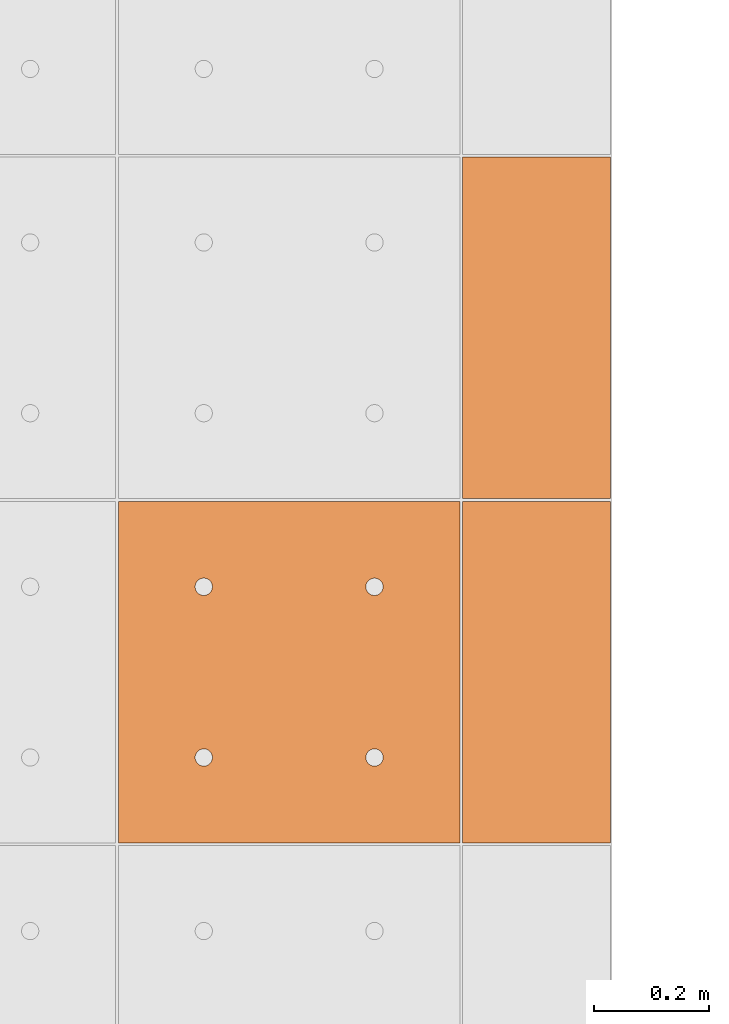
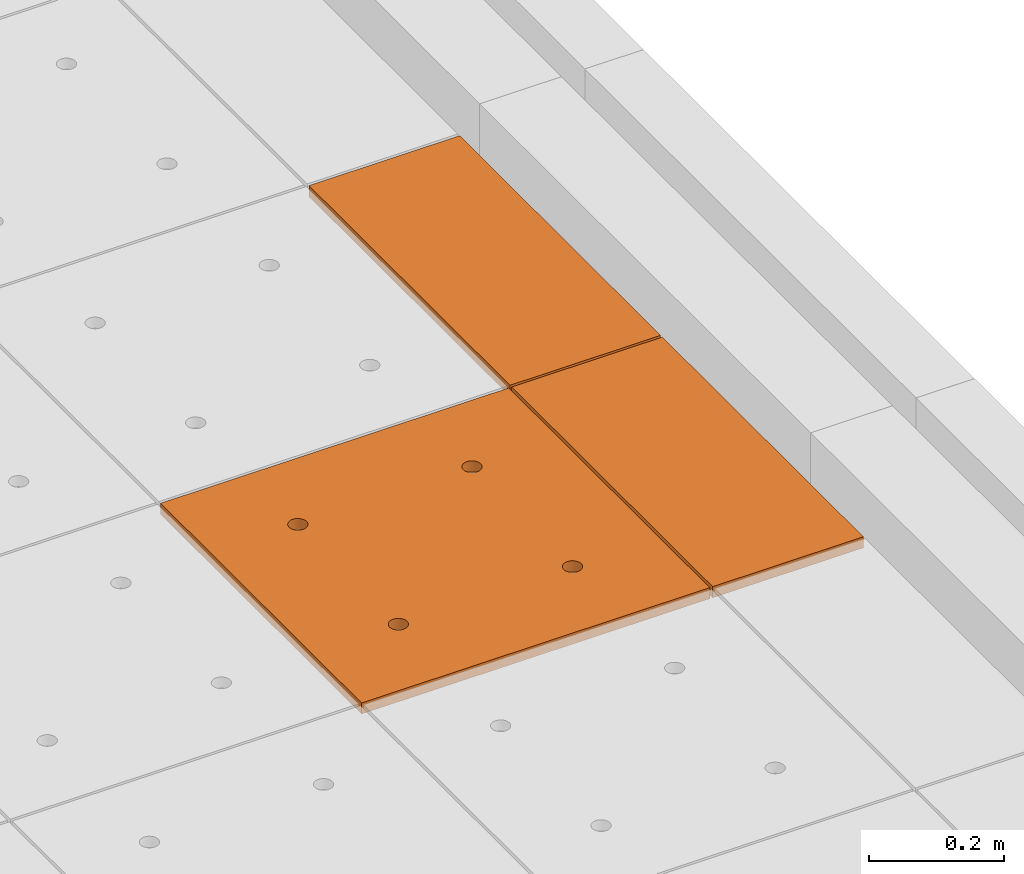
# One storey, part 229 of 338: 3 proxies, 1 element without a shape of its own.
"""IFC2X3 building model written with IfcOpenShell, lengths in millimetres."""

from ifc_helpers import new_model, entity, si_unit, converted_unit, derived_unit, money_unit, direction, frame, origin_with_axes, place, context, subcontext, project, spatial, faceted_brep, source, transform, mapped, material, type_object, type_shapes, element, aggregate, save


model = new_model("IFC2X3")

# Units and contexts
model_context = context("Model", 3, precision=0.01, world=origin_with_axes(), true_north=direction((0.0, 1.0)))
plan_context = context("Plan", 3, precision=0.01, world=origin_with_axes(), true_north=direction((0.0, 1.0)))
body_context = subcontext(model_context, "Body", "Model", "MODEL_VIEW")
ifc_project = project(units=[si_unit("LENGTHUNIT", "METRE", prefix="MILLI"), si_unit("AREAUNIT", "SQUARE_METRE"), si_unit("VOLUMEUNIT", "CUBIC_METRE"), converted_unit("PLANEANGLEUNIT", "DEGREE", entity("IfcPlaneAngleMeasure", 0.0174532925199), si_unit("PLANEANGLEUNIT", "RADIAN"), dimensions=[0, 0, 0, 0, 0, 0, 0]), money_unit("EUR"), converted_unit("TIMEUNIT", "Year", entity("IfcTimeMeasure", 31556926.0), si_unit("TIMEUNIT", "SECOND"), dimensions=[0, 0, 1, 0, 0, 0, 0]), si_unit("MASSUNIT", "GRAM", prefix="KILO"), si_unit("THERMODYNAMICTEMPERATUREUNIT", "DEGREE_CELSIUS"), si_unit("LUMINOUSINTENSITYUNIT", "LUMEN"), si_unit("ENERGYUNIT", "JOULE", prefix="MEGA"), derived_unit("THERMALCONDUCTANCEUNIT", [(si_unit("POWERUNIT", "WATT"), 1), (si_unit("LENGTHUNIT", "METRE"), -1), (si_unit("THERMODYNAMICTEMPERATUREUNIT", "KELVIN"), -1)]), derived_unit("SPECIFICHEATCAPACITYUNIT", [(si_unit("ENERGYUNIT", "JOULE"), 1), (si_unit("MASSUNIT", "GRAM", prefix="KILO"), -1), (si_unit("THERMODYNAMICTEMPERATUREUNIT", "KELVIN"), -1)]), derived_unit("MASSDENSITYUNIT", [(si_unit("MASSUNIT", "GRAM", prefix="KILO"), 1), (si_unit("VOLUMEUNIT", "CUBIC_METRE"), -1)])], contexts=[model_context, plan_context])

# Site, building, storey
site_placement = place(None, origin_with_axes())
site = spatial("IfcSite", under=ifc_project, at=site_placement, Name="Fortuinstraat Woensdrecht", CompositionType="ELEMENT")
building_placement = place(site_placement, origin_with_axes())
building = spatial("IfcBuilding", under=site, at=building_placement, Name="IKC Fortuna", CompositionType="ELEMENT")
storey_placement = place(building_placement, origin_with_axes())
storey = spatial("IfcBuildingStorey", under=building, at=storey_placement, Name="00 begane grond", CompositionType="ELEMENT", Elevation=0.0)

# Covering, proxies
covering_type = type_object("IfcCoveringType", Name="Curtain Wall Type", PredefinedType="CEILING")
covering_placement = place(storey_placement, frame((31656.9226967, 15748.5304598, 3210.0), z_axis=(0.0, 0.0, 1.0), x_axis=(1.0, 0.0, 0.0)))
covering = element("IfcCovering", 1, at=covering_placement, inside=storey, type_object=covering_type, Name="45_Plafondafwerking_P01", PredefinedType="CEILING")
ifc_material = material(Name="Gipsplaat")
building_element_proxy_type_1 = type_object("IfcBuildingElementProxyType", Name="Main Panel 600 x 600 x 20", PredefinedType="NOTDEFINED")
shared_shape_1 = source(origin_with_axes(), body_context, "Body", "Brep", [
    faceted_brep([(2.49999999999, 2.49999999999, -10.0), (300.0, 2.49999999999, -10.0), (300.0, 2.49999999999, 10.0), (2.49999999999, 2.49999999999, 10.0), (2.49999999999, 300.0, -10.0), (2.49999999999, 597.5, -10.0), (300.0, 597.5, -10.0), (597.5, 597.5, -10.0), (597.5, 300.0, -10.0), (597.5, 2.49999999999, -10.0), (166.25, 450.06232995, -10.0), (165.79423259, 452.64711538, -10.0), (164.896546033, 455.11348892, -10.0), (163.58421608, 457.38651108, -10.0), (161.897117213, 459.39711721, -10.0), (159.886511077, 461.08421608, -10.0), (157.613488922, 462.39654603, -10.0), (155.147115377, 463.29423259, -10.0), (152.562329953, 463.75, -10.0), (149.937670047, 463.75, -10.0), (147.352884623, 463.29423259, -10.0), (144.886511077, 462.39654603, -10.0), (142.613488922, 461.08421608, -10.0), (140.602882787, 459.39711721, -10.0), (138.91578392, 457.38651108, -10.0), (137.603453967, 455.11348892, -10.0), (136.705767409, 452.64711538, -10.0), (136.25, 450.06232995, -10.0), (136.25, 448.75, -10.0), (136.25, 447.43767005, -10.0), (136.705767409, 444.85288462, -10.0), (137.603453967, 442.38651108, -10.0), (138.91578392, 440.11348892, -10.0), (140.602882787, 438.10288279, -10.0), (142.613488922, 436.41578392, -10.0), (144.886511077, 435.10345397, -10.0), (147.352884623, 434.20576741, -10.0), (149.937670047, 433.75, -10.0), (152.562329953, 433.75, -10.0), (155.147115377, 434.20576741, -10.0), (157.613488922, 435.10345397, -10.0), (159.886511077, 436.41578392, -10.0), (161.897117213, 438.10288279, -10.0), (163.58421608, 440.11348892, -10.0), (164.896546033, 442.38651108, -10.0), (165.79423259, 444.85288462, -10.0), (166.25, 447.43767005, -10.0), (463.75, 450.06232995, -10.0), (463.29423259, 452.64711538, -10.0), (462.396546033, 455.11348892, -10.0), (461.08421608, 457.38651108, -10.0), (459.397117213, 459.39711721, -10.0), (457.386511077, 461.08421608, -10.0), (455.113488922, 462.39654603, -10.0), (452.647115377, 463.29423259, -10.0), (450.062329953, 463.75, -10.0), (447.437670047, 463.75, -10.0), (444.852884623, 463.29423259, -10.0), (442.386511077, 462.39654603, -10.0), (440.113488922, 461.08421608, -10.0), (438.102882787, 459.39711721, -10.0), (436.41578392, 457.38651108, -10.0), (435.103453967, 455.11348892, -10.0), (434.205767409, 452.64711538, -10.0), (433.75, 450.06232995, -10.0), (433.75, 448.75, -10.0), (433.75, 447.43767005, -10.0), (434.205767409, 444.85288462, -10.0), (435.103453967, 442.38651108, -10.0), (436.41578392, 440.11348892, -10.0), (438.102882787, 438.10288279, -10.0), (440.113488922, 436.41578392, -10.0), (442.386511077, 435.10345397, -10.0), (444.852884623, 434.20576741, -10.0), (447.437670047, 433.75, -10.0), (450.062329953, 433.75, -10.0), (452.647115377, 434.20576741, -10.0), (455.113488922, 435.10345397, -10.0), (457.386511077, 436.41578392, -10.0), (459.397117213, 438.10288279, -10.0), (461.08421608, 440.11348892, -10.0), (462.396546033, 442.38651108, -10.0), (463.29423259, 444.85288462, -10.0), (463.75, 447.43767005, -10.0), (463.75, 152.56232995, -10.0), (463.29423259, 155.14711538, -10.0), (462.396546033, 157.61348892, -10.0), (461.08421608, 159.88651108, -10.0), (459.397117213, 161.89711721, -10.0), (457.386511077, 163.58421608, -10.0), (455.113488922, 164.89654603, -10.0), (452.647115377, 165.79423259, -10.0), (450.062329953, 166.25, -10.0), (447.437670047, 166.25, -10.0), (444.852884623, 165.79423259, -10.0), (442.386511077, 164.89654603, -10.0), (440.113488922, 163.58421608, -10.0), (438.102882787, 161.89711721, -10.0), (436.41578392, 159.88651108, -10.0), (435.103453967, 157.61348892, -10.0), (434.205767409, 155.14711538, -10.0), (433.75, 152.56232995, -10.0), (433.75, 151.25, -10.0), (433.75, 149.93767005, -10.0), (434.205767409, 147.35288462, -10.0), (435.103453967, 144.88651108, -10.0), (436.41578392, 142.61348892, -10.0), (438.102882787, 140.60288279, -10.0), (440.113488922, 138.91578392, -10.0), (442.386511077, 137.60345397, -10.0), (444.852884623, 136.70576741, -10.0), (447.437670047, 136.25, -10.0), (450.062329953, 136.25, -10.0), (452.647115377, 136.70576741, -10.0), (455.113488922, 137.60345397, -10.0), (457.386511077, 138.91578392, -10.0), (459.397117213, 140.60288279, -10.0), (461.08421608, 142.61348892, -10.0), (462.396546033, 144.88651108, -10.0), (463.29423259, 147.35288462, -10.0), (463.75, 149.93767005, -10.0), (166.25, 152.56232995, -10.0), (165.79423259, 155.14711538, -10.0), (164.896546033, 157.61348892, -10.0), (163.58421608, 159.88651108, -10.0), (161.897117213, 161.89711721, -10.0), (159.886511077, 163.58421608, -10.0), (157.613488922, 164.89654603, -10.0), (155.147115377, 165.79423259, -10.0), (152.562329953, 166.25, -10.0), (149.937670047, 166.25, -10.0), (147.352884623, 165.79423259, -10.0), (144.886511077, 164.89654603, -10.0), (142.613488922, 163.58421608, -10.0), (140.602882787, 161.89711721, -10.0), (138.91578392, 159.88651108, -10.0), (137.603453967, 157.61348892, -10.0), (136.705767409, 155.14711538, -10.0), (136.25, 152.56232995, -10.0), (136.25, 151.25, -10.0), (136.25, 149.93767005, -10.0), (136.705767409, 147.35288462, -10.0), (137.603453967, 144.88651108, -10.0), (138.91578392, 142.61348892, -10.0), (140.602882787, 140.60288279, -10.0), (142.613488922, 138.91578392, -10.0), (144.886511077, 137.60345397, -10.0), (147.352884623, 136.70576741, -10.0), (149.937670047, 136.25, -10.0), (152.562329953, 136.25, -10.0), (155.147115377, 136.70576741, -10.0), (157.613488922, 137.60345397, -10.0), (159.886511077, 138.91578392, -10.0), (161.897117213, 140.60288279, -10.0), (163.58421608, 142.61348892, -10.0), (164.896546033, 144.88651108, -10.0), (165.79423259, 147.35288462, -10.0), (166.25, 149.93767005, -10.0), (597.5, 2.49999999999, 10.0), (597.5, 300.0, 10.0), (597.5, 597.5, 10.0), (300.0, 597.5, 10.0), (2.49999999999, 597.5, 10.0), (2.49999999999, 300.0, 10.0), (166.25, 450.06232995, 10.0), (166.25, 447.43767005, 10.0), (165.79423259, 444.85288462, 10.0), (164.896546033, 442.38651108, 10.0), (163.58421608, 440.11348892, 10.0), (161.897117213, 438.10288279, 10.0), (159.886511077, 436.41578392, 10.0), (157.613488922, 435.10345397, 10.0), (155.147115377, 434.20576741, 10.0), (152.562329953, 433.75, 10.0), (149.937670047, 433.75, 10.0), (147.352884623, 434.20576741, 10.0), (144.886511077, 435.10345397, 10.0), (142.613488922, 436.41578392, 10.0), (140.602882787, 438.10288279, 10.0), (138.91578392, 440.11348892, 10.0), (137.603453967, 442.38651108, 10.0), (136.705767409, 444.85288462, 10.0), (136.25, 447.43767005, 10.0), (136.25, 448.75, 10.0), (136.25, 450.06232995, 10.0), (136.705767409, 452.64711538, 10.0), (137.603453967, 455.11348892, 10.0), (138.91578392, 457.38651108, 10.0), (140.602882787, 459.39711721, 10.0), (142.613488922, 461.08421608, 10.0), (144.886511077, 462.39654603, 10.0), (147.352884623, 463.29423259, 10.0), (149.937670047, 463.75, 10.0), (152.562329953, 463.75, 10.0), (155.147115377, 463.29423259, 10.0), (157.613488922, 462.39654603, 10.0), (159.886511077, 461.08421608, 10.0), (161.897117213, 459.39711721, 10.0), (163.58421608, 457.38651108, 10.0), (164.896546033, 455.11348892, 10.0), (165.79423259, 452.64711538, 10.0), (463.75, 450.06232995, 10.0), (463.75, 447.43767005, 10.0), (463.29423259, 444.85288462, 10.0), (462.396546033, 442.38651108, 10.0), (461.08421608, 440.11348892, 10.0), (459.397117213, 438.10288279, 10.0), (457.386511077, 436.41578392, 10.0), (455.113488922, 435.10345397, 10.0), (452.647115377, 434.20576741, 10.0), (450.062329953, 433.75, 10.0), (447.437670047, 433.75, 10.0), (444.852884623, 434.20576741, 10.0), (442.386511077, 435.10345397, 10.0), (440.113488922, 436.41578392, 10.0), (438.102882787, 438.10288279, 10.0), (436.41578392, 440.11348892, 10.0), (435.103453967, 442.38651108, 10.0), (434.205767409, 444.85288462, 10.0), (433.75, 447.43767005, 10.0), (433.75, 448.75, 10.0), (433.75, 450.06232995, 10.0), (434.205767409, 452.64711538, 10.0), (435.103453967, 455.11348892, 10.0), (436.41578392, 457.38651108, 10.0), (438.102882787, 459.39711721, 10.0), (440.113488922, 461.08421608, 10.0), (442.386511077, 462.39654603, 10.0), (444.852884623, 463.29423259, 10.0), (447.437670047, 463.75, 10.0), (450.062329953, 463.75, 10.0), (452.647115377, 463.29423259, 10.0), (455.113488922, 462.39654603, 10.0), (457.386511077, 461.08421608, 10.0), (459.397117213, 459.39711721, 10.0), (461.08421608, 457.38651108, 10.0), (462.396546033, 455.11348892, 10.0), (463.29423259, 452.64711538, 10.0), (463.75, 152.56232995, 10.0), (463.75, 149.93767005, 10.0), (463.29423259, 147.35288462, 10.0), (462.396546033, 144.88651108, 10.0), (461.08421608, 142.61348892, 10.0), (459.397117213, 140.60288279, 10.0), (457.386511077, 138.91578392, 10.0), (455.113488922, 137.60345397, 10.0), (452.647115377, 136.70576741, 10.0), (450.062329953, 136.25, 10.0), (447.437670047, 136.25, 10.0), (444.852884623, 136.70576741, 10.0), (442.386511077, 137.60345397, 10.0), (440.113488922, 138.91578392, 10.0), (438.102882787, 140.60288279, 10.0), (436.41578392, 142.61348892, 10.0), (435.103453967, 144.88651108, 10.0), (434.205767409, 147.35288462, 10.0), (433.75, 149.93767005, 10.0), (433.75, 151.25, 10.0), (433.75, 152.56232995, 10.0), (434.205767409, 155.14711538, 10.0), (435.103453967, 157.61348892, 10.0), (436.41578392, 159.88651108, 10.0), (438.102882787, 161.89711721, 10.0), (440.113488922, 163.58421608, 10.0), (442.386511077, 164.89654603, 10.0), (444.852884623, 165.79423259, 10.0), (447.437670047, 166.25, 10.0), (450.062329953, 166.25, 10.0), (452.647115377, 165.79423259, 10.0), (455.113488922, 164.89654603, 10.0), (457.386511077, 163.58421608, 10.0), (459.397117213, 161.89711721, 10.0), (461.08421608, 159.88651108, 10.0), (462.396546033, 157.61348892, 10.0), (463.29423259, 155.14711538, 10.0), (166.25, 152.56232995, 10.0), (166.25, 149.93767005, 10.0), (165.79423259, 147.35288462, 10.0), (164.896546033, 144.88651108, 10.0), (163.58421608, 142.61348892, 10.0), (161.897117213, 140.60288279, 10.0), (159.886511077, 138.91578392, 10.0), (157.613488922, 137.60345397, 10.0), (155.147115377, 136.70576741, 10.0), (152.562329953, 136.25, 10.0), (149.937670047, 136.25, 10.0), (147.352884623, 136.70576741, 10.0), (144.886511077, 137.60345397, 10.0), (142.613488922, 138.91578392, 10.0), (140.602882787, 140.60288279, 10.0), (138.91578392, 142.61348892, 10.0), (137.603453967, 144.88651108, 10.0), (136.705767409, 147.35288462, 10.0), (136.25, 149.93767005, 10.0), (136.25, 151.25, 10.0), (136.25, 152.56232995, 10.0), (136.705767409, 155.14711538, 10.0), (137.603453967, 157.61348892, 10.0), (138.91578392, 159.88651108, 10.0), (140.602882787, 161.89711721, 10.0), (142.613488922, 163.58421608, 10.0), (144.886511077, 164.89654603, 10.0), (147.352884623, 165.79423259, 10.0), (149.937670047, 166.25, 10.0), (152.562329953, 166.25, 10.0), (155.147115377, 165.79423259, 10.0), (157.613488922, 164.89654603, 10.0), (159.886511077, 163.58421608, 10.0), (161.897117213, 161.89711721, 10.0), (163.58421608, 159.88651108, 10.0), (164.896546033, 157.61348892, 10.0), (165.79423259, 155.14711538, 10.0)], [[[0, 1, 2, 3]], [[0, 4, 5, 6, 7, 8, 9, 1], [10, 11, 12, 13, 14, 15, 16, 17, 18, 19, 20, 21, 22, 23, 24, 25, 26, 27, 28, 29, 30, 31, 32, 33, 34, 35, 36, 37, 38, 39, 40, 41, 42, 43, 44, 45, 46], [47, 48, 49, 50, 51, 52, 53, 54, 55, 56, 57, 58, 59, 60, 61, 62, 63, 64, 65, 66, 67, 68, 69, 70, 71, 72, 73, 74, 75, 76, 77, 78, 79, 80, 81, 82, 83], [84, 85, 86, 87, 88, 89, 90, 91, 92, 93, 94, 95, 96, 97, 98, 99, 100, 101, 102, 103, 104, 105, 106, 107, 108, 109, 110, 111, 112, 113, 114, 115, 116, 117, 118, 119, 120], [121, 122, 123, 124, 125, 126, 127, 128, 129, 130, 131, 132, 133, 134, 135, 136, 137, 138, 139, 140, 141, 142, 143, 144, 145, 146, 147, 148, 149, 150, 151, 152, 153, 154, 155, 156, 157]], [[1, 9, 158, 2]], [[3, 2, 158, 159, 160, 161, 162, 163], [164, 165, 166, 167, 168, 169, 170, 171, 172, 173, 174, 175, 176, 177, 178, 179, 180, 181, 182, 183, 184, 185, 186, 187, 188, 189, 190, 191, 192, 193, 194, 195, 196, 197, 198, 199, 200], [201, 202, 203, 204, 205, 206, 207, 208, 209, 210, 211, 212, 213, 214, 215, 216, 217, 218, 219, 220, 221, 222, 223, 224, 225, 226, 227, 228, 229, 230, 231, 232, 233, 234, 235, 236, 237], [238, 239, 240, 241, 242, 243, 244, 245, 246, 247, 248, 249, 250, 251, 252, 253, 254, 255, 256, 257, 258, 259, 260, 261, 262, 263, 264, 265, 266, 267, 268, 269, 270, 271, 272, 273, 274], [275, 276, 277, 278, 279, 280, 281, 282, 283, 284, 285, 286, 287, 288, 289, 290, 291, 292, 293, 294, 295, 296, 297, 298, 299, 300, 301, 302, 303, 304, 305, 306, 307, 308, 309, 310, 311]], [[4, 0, 3, 163]], [[5, 4, 163, 162]], [[6, 5, 162, 161]], [[7, 6, 161, 160]], [[8, 7, 160, 159]], [[9, 8, 159, 158]], [[11, 10, 164, 200]], [[12, 11, 200, 199]], [[13, 12, 199, 198]], [[14, 13, 198, 197]], [[15, 14, 197, 196]], [[16, 15, 196, 195]], [[17, 16, 195, 194]], [[18, 17, 194, 193]], [[19, 18, 193, 192]], [[20, 19, 192, 191]], [[21, 20, 191, 190]], [[22, 21, 190, 189]], [[23, 22, 189, 188]], [[24, 23, 188, 187]], [[25, 24, 187, 186]], [[26, 25, 186, 185]], [[27, 26, 185, 184]], [[28, 27, 184, 183]], [[29, 28, 183, 182]], [[30, 29, 182, 181]], [[31, 30, 181, 180]], [[32, 31, 180, 179]], [[33, 32, 179, 178]], [[34, 33, 178, 177]], [[35, 34, 177, 176]], [[36, 35, 176, 175]], [[37, 36, 175, 174]], [[38, 37, 174, 173]], [[39, 38, 173, 172]], [[40, 39, 172, 171]], [[41, 40, 171, 170]], [[42, 41, 170, 169]], [[43, 42, 169, 168]], [[44, 43, 168, 167]], [[45, 44, 167, 166]], [[46, 45, 166, 165]], [[10, 46, 165, 164]], [[48, 47, 201, 237]], [[49, 48, 237, 236]], [[50, 49, 236, 235]], [[51, 50, 235, 234]], [[52, 51, 234, 233]], [[53, 52, 233, 232]], [[54, 53, 232, 231]], [[55, 54, 231, 230]], [[56, 55, 230, 229]], [[57, 56, 229, 228]], [[58, 57, 228, 227]], [[59, 58, 227, 226]], [[60, 59, 226, 225]], [[61, 60, 225, 224]], [[62, 61, 224, 223]], [[63, 62, 223, 222]], [[64, 63, 222, 221]], [[65, 64, 221, 220]], [[66, 65, 220, 219]], [[67, 66, 219, 218]], [[68, 67, 218, 217]], [[69, 68, 217, 216]], [[70, 69, 216, 215]], [[71, 70, 215, 214]], [[72, 71, 214, 213]], [[73, 72, 213, 212]], [[74, 73, 212, 211]], [[75, 74, 211, 210]], [[76, 75, 210, 209]], [[77, 76, 209, 208]], [[78, 77, 208, 207]], [[79, 78, 207, 206]], [[80, 79, 206, 205]], [[81, 80, 205, 204]], [[82, 81, 204, 203]], [[83, 82, 203, 202]], [[47, 83, 202, 201]], [[85, 84, 238, 274]], [[86, 85, 274, 273]], [[87, 86, 273, 272]], [[88, 87, 272, 271]], [[89, 88, 271, 270]], [[90, 89, 270, 269]], [[91, 90, 269, 268]], [[92, 91, 268, 267]], [[93, 92, 267, 266]], [[94, 93, 266, 265]], [[95, 94, 265, 264]], [[96, 95, 264, 263]], [[97, 96, 263, 262]], [[98, 97, 262, 261]], [[99, 98, 261, 260]], [[100, 99, 260, 259]], [[101, 100, 259, 258]], [[102, 101, 258, 257]], [[103, 102, 257, 256]], [[104, 103, 256, 255]], [[105, 104, 255, 254]], [[106, 105, 254, 253]], [[107, 106, 253, 252]], [[108, 107, 252, 251]], [[109, 108, 251, 250]], [[110, 109, 250, 249]], [[111, 110, 249, 248]], [[112, 111, 248, 247]], [[113, 112, 247, 246]], [[114, 113, 246, 245]], [[115, 114, 245, 244]], [[116, 115, 244, 243]], [[117, 116, 243, 242]], [[118, 117, 242, 241]], [[119, 118, 241, 240]], [[120, 119, 240, 239]], [[84, 120, 239, 238]], [[122, 121, 275, 311]], [[123, 122, 311, 310]], [[124, 123, 310, 309]], [[125, 124, 309, 308]], [[126, 125, 308, 307]], [[127, 126, 307, 306]], [[128, 127, 306, 305]], [[129, 128, 305, 304]], [[130, 129, 304, 303]], [[131, 130, 303, 302]], [[132, 131, 302, 301]], [[133, 132, 301, 300]], [[134, 133, 300, 299]], [[135, 134, 299, 298]], [[136, 135, 298, 297]], [[137, 136, 297, 296]], [[138, 137, 296, 295]], [[139, 138, 295, 294]], [[140, 139, 294, 293]], [[141, 140, 293, 292]], [[142, 141, 292, 291]], [[143, 142, 291, 290]], [[144, 143, 290, 289]], [[145, 144, 289, 288]], [[146, 145, 288, 287]], [[147, 146, 287, 286]], [[148, 147, 286, 285]], [[149, 148, 285, 284]], [[150, 149, 284, 283]], [[151, 150, 283, 282]], [[152, 151, 282, 281]], [[153, 152, 281, 280]], [[154, 153, 280, 279]], [[155, 154, 279, 278]], [[156, 155, 278, 277]], [[157, 156, 277, 276]], [[121, 157, 276, 275]]]),
])
type_shapes(building_element_proxy_type_1, [shared_shape_1])
proxy_1_placement = place(covering_placement, frame((2400.0, -1800.0, 0.0), z_axis=(0.0, 0.0, 1.0), x_axis=(1.0, 0.0, 0.0)))
proxy_1 = element("IfcBuildingElementProxy", 2, at=proxy_1_placement, type_object=building_element_proxy_type_1, material=ifc_material, Name="__600x775 Rockfon Krios", context=body_context, shape_type="MappedRepresentation", body=[
    mapped(shared_shape_1, transform((300.0, 300.0, 0.0), x_axis=(-1.0, 0.0, 0.0), y_axis=(0.0, -1.0, 0.0), z_axis=(0.0, 0.0, 1.0))),
])
building_element_proxy_type_2 = type_object("IfcBuildingElementProxyType", Name="263 x 600 x 20", PredefinedType="NOTDEFINED")
shared_shape_2 = source(origin_with_axes(), body_context, "Body", "Brep", [
    faceted_brep([(339.99569058, 2.5, -10.0), (597.5, 2.49999999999, -10.0), (597.5, 2.49999999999, 10.0), (339.99569058, 2.5, 10.0), (339.99569058, 597.5, -10.0), (597.5, 597.5, -10.0), (597.5, 597.5, 10.0), (339.99569058, 597.5, 10.0)], [[[0, 1, 2, 3]], [[0, 4, 5, 1]], [[1, 5, 6, 2]], [[3, 2, 6, 7]], [[4, 0, 3, 7]], [[5, 4, 7, 6]]]),
])
type_shapes(building_element_proxy_type_2, [shared_shape_2])
proxy_2_placement = place(covering_placement, frame((2831.25215667, -1800.0, 0.0), z_axis=(0.0, 0.0, 1.0), x_axis=(1.0, 0.0, 0.0)))
proxy_2 = element("IfcBuildingElementProxy", 3, at=proxy_2_placement, type_object=building_element_proxy_type_2, material=ifc_material, Name="__600x693 Rockfon Krios", context=body_context, shape_type="MappedRepresentation", body=[
    mapped(shared_shape_2, transform((468.747843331, 300.0, 0.0), x_axis=(-1.0, 0.0, 0.0), y_axis=(0.0, -1.0, 0.0), z_axis=(0.0, 0.0, 1.0))),
])
proxy_3_placement = place(covering_placement, frame((2831.25215667, -1200.0, 0.0), z_axis=(0.0, 0.0, 1.0), x_axis=(1.0, 0.0, 0.0)))
proxy_3 = element("IfcBuildingElementProxy", 4, at=proxy_3_placement, type_object=building_element_proxy_type_2, material=ifc_material, Name="__600x769 Rockfon Krios", context=body_context, shape_type="MappedRepresentation", body=[
    mapped(shared_shape_2, transform((468.747843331, 300.0, 0.0), x_axis=(-1.0, 0.0, 0.0), y_axis=(0.0, -1.0, 0.0), z_axis=(0.0, 0.0, 1.0))),
])
aggregate(covering, [proxy_1, proxy_2, proxy_3])

save(model, "model.ifc")
